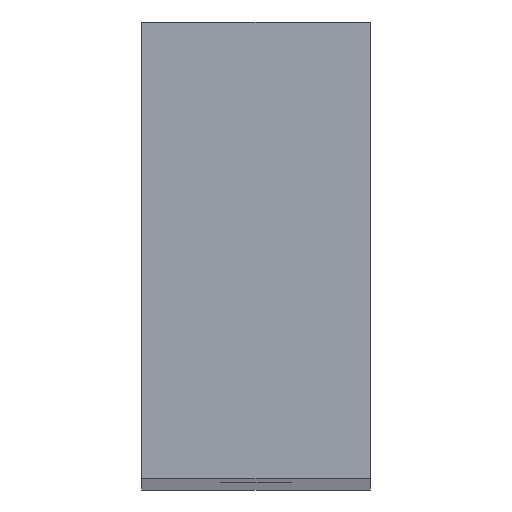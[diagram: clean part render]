
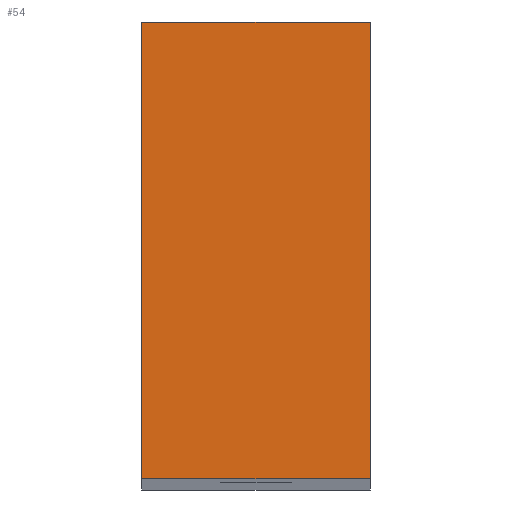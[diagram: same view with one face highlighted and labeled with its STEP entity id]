
A CAD part, top view. The second image highlights one B-rep face of the part: STEP entity #54.
In plain terms, the highlighted planar face has unit normal (0, 0, 1).
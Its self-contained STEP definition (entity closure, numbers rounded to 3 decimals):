
#9 = LINE ( 'NONE', #230, #256 ) ;
#17 = ORIENTED_EDGE ( 'NONE', *, *, #32, .F. ) ;
#32 = EDGE_CURVE ( 'NONE', #236, #106, #35, .T. ) ;
#35 = LINE ( 'NONE', #521, #309 ) ;
#54 = ADVANCED_FACE ( 'NONE', ( #564 ), #345, .F. ) ;
#69 = ORIENTED_EDGE ( 'NONE', *, *, #104, .F. ) ;
#85 = LINE ( 'NONE', #124, #426 ) ;
#88 = CARTESIAN_POINT ( 'NONE',  ( 0., -24., 341. ) ) ;
#92 = CARTESIAN_POINT ( 'NONE',  ( 0., 24., 341. ) ) ;
#104 = EDGE_CURVE ( 'NONE', #491, #236, #85, .T. ) ;
#106 = VERTEX_POINT ( 'NONE', #88 ) ;
#122 = CARTESIAN_POINT ( 'NONE',  ( 24., -24., 341. ) ) ;
#124 = CARTESIAN_POINT ( 'NONE',  ( 24., -24., 341. ) ) ;
#128 = DIRECTION ( 'NONE',  ( 0., -1., 0. ) ) ;
#165 = EDGE_CURVE ( 'NONE', #294, #106, #9, .T. ) ;
#185 = CARTESIAN_POINT ( 'NONE',  ( 24., -24., 341. ) ) ;
#208 = CARTESIAN_POINT ( 'NONE',  ( 24., 24., 341. ) ) ;
#230 = CARTESIAN_POINT ( 'NONE',  ( 0., -24., 341. ) ) ;
#236 = VERTEX_POINT ( 'NONE', #185 ) ;
#242 = VECTOR ( 'NONE', #380, 1000. ) ;
#253 = ORIENTED_EDGE ( 'NONE', *, *, #468, .T. ) ;
#256 = VECTOR ( 'NONE', #493, 1000. ) ;
#294 = VERTEX_POINT ( 'NONE', #92 ) ;
#309 = VECTOR ( 'NONE', #472, 1000. ) ;
#315 = ORIENTED_EDGE ( 'NONE', *, *, #165, .T. ) ;
#345 = PLANE ( 'NONE',  #485 ) ;
#348 = DIRECTION ( 'NONE',  ( 0., 0., -1. ) ) ;
#378 = LINE ( 'NONE', #458, #242 ) ;
#380 = DIRECTION ( 'NONE',  ( -1., 0., 0. ) ) ;
#392 = DIRECTION ( 'NONE',  ( -1., 0., 0. ) ) ;
#426 = VECTOR ( 'NONE', #128, 1000. ) ;
#458 = CARTESIAN_POINT ( 'NONE',  ( 24., 24., 341. ) ) ;
#468 = EDGE_CURVE ( 'NONE', #491, #294, #378, .T. ) ;
#472 = DIRECTION ( 'NONE',  ( -1., 0., 0. ) ) ;
#485 = AXIS2_PLACEMENT_3D ( 'NONE', #122, #348, #392 ) ;
#491 = VERTEX_POINT ( 'NONE', #208 ) ;
#493 = DIRECTION ( 'NONE',  ( 0., -1., 0. ) ) ;
#513 = EDGE_LOOP ( 'NONE', ( #315, #17, #69, #253 ) ) ;
#521 = CARTESIAN_POINT ( 'NONE',  ( 24., -24., 341. ) ) ;
#564 = FACE_OUTER_BOUND ( 'NONE', #513, .T. ) ;
